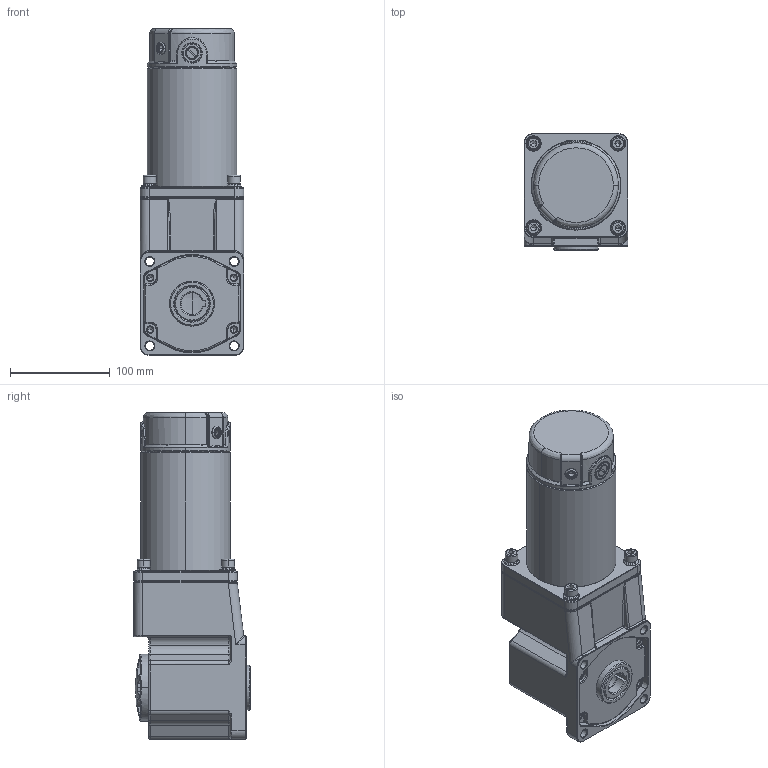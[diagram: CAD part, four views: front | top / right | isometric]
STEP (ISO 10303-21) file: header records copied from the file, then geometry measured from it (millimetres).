
FILE_DESCRIPTION (( 'STEP AP203' ), '1' );
FILE_NAME ('100-120»ú¿ÇRC.STEP', '2020-04-15T06:42:25', ( '' ), ( '' ), 'SwSTEP 2.0', 'SolidWorks 2018', '' );
FILE_SCHEMA (( 'CONFIG_CONTROL_DESIGN' ));
Length unit declared in the file: millimetre
Products named in the file (9): H; JK; TAN; PRT0001_1; 6RC; Z6D300W; PING-M8; LUO; 100-120儂褲RC
Assembly tree (10 placements, depth 3):
  100-120儂褲RC
    Z6D300W
      H
      PING-M8
      LUO  x2
      TAN  x2
      JK
      PRT0001_1
    6RC
Bounding box: 104 x 117 x 328.5 mm (x, y, z)
Volume: 1439179.6 mm3; surface area: 343282 mm2
Topology: 31 solids, 33 shells, 2660 faces, 6748 edges, 4115 vertices
Faces by surface type: bspline 727, plane 712, cylinder 689, cone 532
Entity records: 128226 total; most frequent: CARTESIAN_POINT 72951, ORIENTED_EDGE 13072, DIRECTION 9010, EDGE_CURVE 6536, VERTEX_POINT 4039, AXIS2_PLACEMENT_3D 3540, EDGE_LOOP 2725, ADVANCED_FACE 2608
